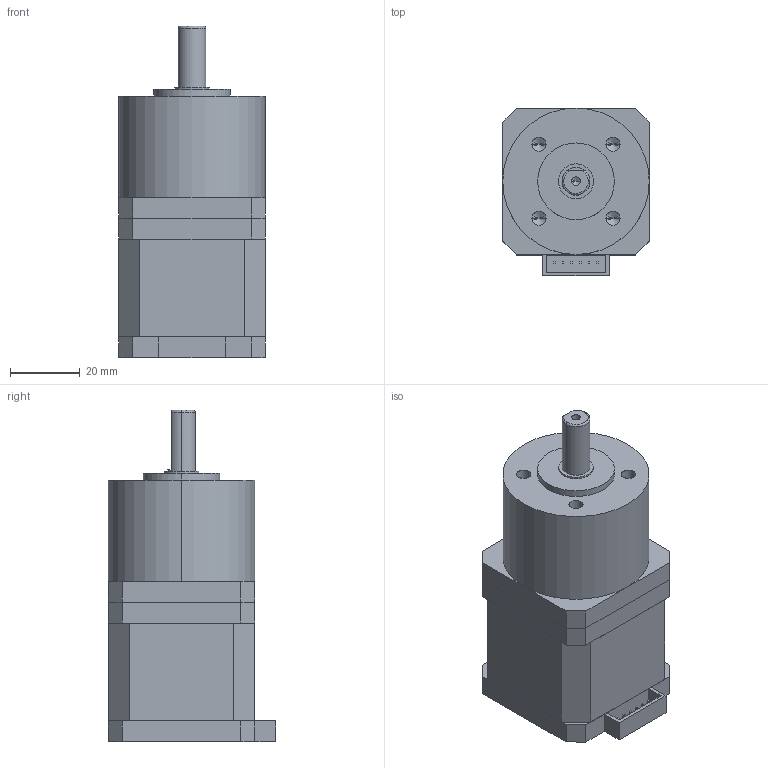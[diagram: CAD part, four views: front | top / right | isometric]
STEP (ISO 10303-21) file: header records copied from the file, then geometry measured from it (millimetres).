
FILE_DESCRIPTION (( 'STEP AP203' ), '1' );
FILE_NAME ('T42PG010-D17-0440.STEP', '2019-10-25T07:44:11', ( 'China' ), ( 'Home' ), 'SwSTEP 2.0', 'SolidWorks 2016', '' );
FILE_SCHEMA (( 'CONFIG_CONTROL_DESIGN' ));
Length unit declared in the file: millimetre
Products named in the file (1): T42PG010-D17-0440
Bounding box: 42 x 48 x 95 mm (x, y, z)
Volume: 120151.8 mm3; surface area: 26367.9 mm2
Topology: 4 solids, 4 shells, 127 faces, 301 edges, 187 vertices
Faces by surface type: plane 88, cone 18, cylinder 18, bspline 3
Entity records: 3676 total; most frequent: CARTESIAN_POINT 706, DIRECTION 586, ORIENTED_EDGE 582, EDGE_CURVE 291, LINE 236, VECTOR 236, VERTEX_POINT 187, AXIS2_PLACEMENT_3D 175
